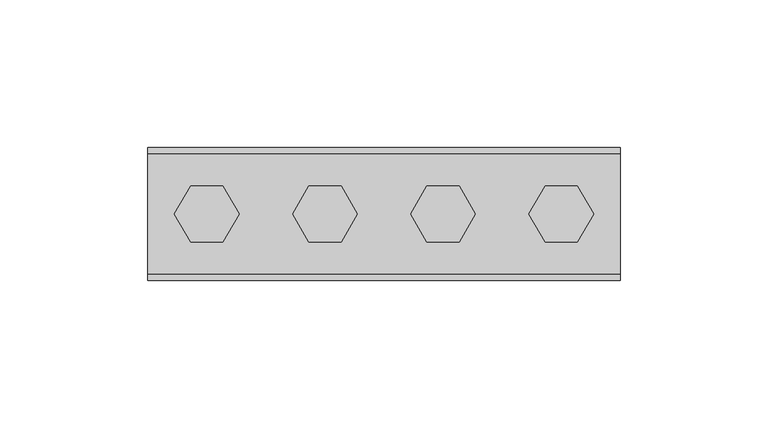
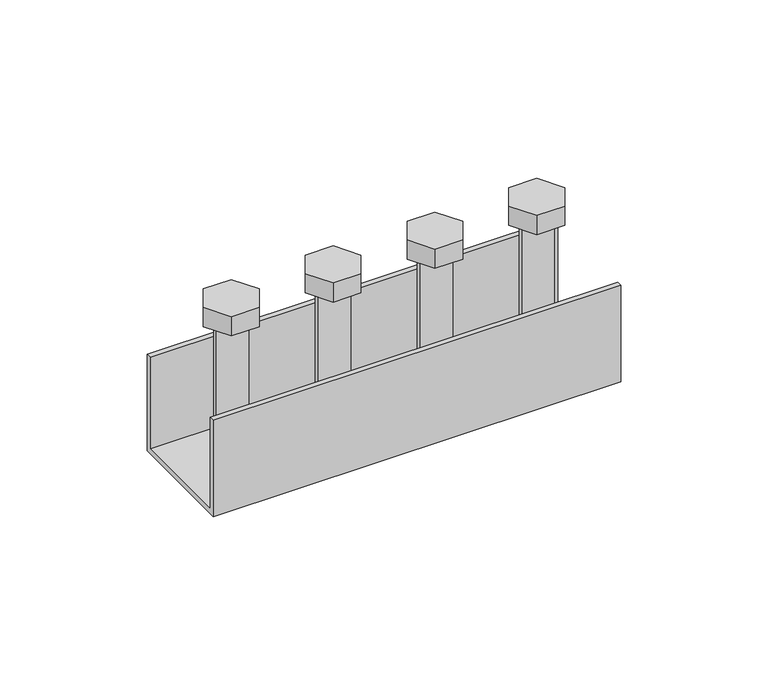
"""IFC4 building model written with IfcOpenShell, lengths in millimetres: unitary equipment geometry, NLRS_52_ME_FB_Geberit Pluvia verbindingselement_PRO_101959 : 363.864.00.1 Geberit Pluvia verbindingselement."""

from ifc_helpers import new_model, si_unit, frame, origin, place, context, project, spatial, circle_curve, source, transform, mapped, element, save
from ifc_brep_helpers import plane_surface, cylinder_surface, advanced_brep


def unitary_equipment_553f520f(model_context):
    return source(origin(), model_context, "Body", "AdvancedBrep", [
        advanced_brep(
        [(-80.0, -22.5, -62.0), (-80.0, -22.5, -22.0), (-80.0, -20.5, -22.0), (-80.0, -20.5, -60.0), (-80.0, 20.5, -60.0), (-80.0, 20.5, -22.0), (-80.0, 22.5, -22.0), (-80.0, 22.5, -62.0), (80.0, -22.5, -62.0), (80.0, 22.5, -62.0), (80.0, 22.5, -22.0), (80.0, 20.5, -22.0), (80.0, 20.5, -60.0), (80.0, -20.5, -60.0), (80.0, -20.5, -22.0), (80.0, -22.5, -22.0), (-72.0, 0.0, -62.0), (-48.0, 0.0, -62.0), (-32.0, 0.0, -62.0), (-8.0, 0.0, -62.0), (8.0, 0.0, -62.0), (32.0, 0.0, -62.0), (48.0, 0.0, -62.0), (72.0, 0.0, -62.0), (54.0, 0.0, -60.0), (66.0, 0.0, -60.0), (14.0, 0.0, -60.0), (26.0, 0.0, -60.0), (-26.0, 0.0, -60.0), (-14.0, 0.0, -60.0), (-66.0, 0.0, -60.0), (-54.0, 0.0, -60.0), (-48.0, 0.0, -64.5), (-72.0, 0.0, -64.5), (-70.9696551, 0.0, -64.5), (-65.4848276, -9.5, -64.5), (-54.5151724, -9.5, -64.5), (-49.0303449, 0.0, -64.5), (-54.5151724, 9.5, -64.5), (-65.4848276, 9.5, -64.5), (-8.0, 0.0, -64.5), (-32.0, 0.0, -64.5), (-30.9696551, 0.0, -64.5), (-25.4848276, -9.5, -64.5), (-14.5151724, -9.5, -64.5), (-9.0303449, 0.0, -64.5), (-14.5151724, 9.5, -64.5), (-25.4848276, 9.5, -64.5), (32.0, 0.0, -64.5), (8.0, 0.0, -64.5), (9.0303449, 0.0, -64.5), (14.5151724, -9.5, -64.5), (25.4848276, -9.5, -64.5), (30.9696551, 0.0, -64.5), (25.4848276, 9.5, -64.5), (14.5151724, 9.5, -64.5), (72.0, 0.0, -64.5), (48.0, 0.0, -64.5), (49.0303449, 0.0, -64.5), (54.5151724, -9.5, -64.5), (65.4848276, -9.5, -64.5), (70.9696551, 0.0, -64.5), (65.4848276, 9.5, -64.5), (54.5151724, 9.5, -64.5), (-70.9696551, 0.0, -72.5), (-65.4848276, 9.5, -72.5), (-54.5151724, 9.5, -72.5), (-49.0303449, 0.0, -72.5), (-54.5151724, -9.5, -72.5), (-65.4848276, -9.5, -72.5), (-30.9696551, 0.0, -72.5), (-25.4848276, 9.5, -72.5), (-14.5151724, 9.5, -72.5), (-9.0303449, 0.0, -72.5), (-14.5151724, -9.5, -72.5), (-25.4848276, -9.5, -72.5), (9.0303449, 0.0, -72.5), (14.5151724, 9.5, -72.5), (25.4848276, 9.5, -72.5), (30.9696551, 0.0, -72.5), (25.4848276, -9.5, -72.5), (14.5151724, -9.5, -72.5), (49.0303449, 0.0, -72.5), (54.5151724, 9.5, -72.5), (65.4848276, 9.5, -72.5), (70.9696551, 0.0, -72.5), (65.4848276, -9.5, -72.5), (54.5151724, -9.5, -72.5), (49.0303449, 0.0, 8.0), (54.5151724, -9.5, 8.0), (65.4848276, -9.5, 8.0), (70.9696551, 0.0, 8.0), (65.4848276, 9.5, 8.0), (54.5151724, 9.5, 8.0), (9.0303449, 0.0, 8.0), (14.5151724, -9.5, 8.0), (25.4848276, -9.5, 8.0), (30.9696551, 0.0, 8.0), (25.4848276, 9.5, 8.0), (14.5151724, 9.5, 8.0), (-30.9696551, 0.0, 8.0), (-25.4848276, -9.5, 8.0), (-14.5151724, -9.5, 8.0), (-9.0303449, 0.0, 8.0), (-14.5151724, 9.5, 8.0), (-25.4848276, 9.5, 8.0), (-70.9696551, 0.0, 8.0), (-65.4848276, -9.5, 8.0), (-54.5151724, -9.5, 8.0), (-49.0303449, 0.0, 8.0), (-54.5151724, 9.5, 8.0), (-65.4848276, 9.5, 8.0), (54.0, 0.0, 0.0), (66.0, 0.0, 0.0), (14.0, 0.0, 0.0), (26.0, 0.0, 0.0), (-26.0, 0.0, 0.0), (-14.0, 0.0, 0.0), (-66.0, 0.0, 0.0), (-54.0, 0.0, 0.0), (49.0303449, 0.0, 0.0), (54.5151724, 9.5, 0.0), (65.4848276, 9.5, 0.0), (70.9696551, 0.0, 0.0), (65.4848276, -9.5, 0.0), (54.5151724, -9.5, 0.0), (9.0303449, 0.0, 0.0), (14.5151724, 9.5, 0.0), (25.4848276, 9.5, 0.0), (30.9696551, 0.0, 0.0), (25.4848276, -9.5, 0.0), (14.5151724, -9.5, 0.0), (-30.9696551, 0.0, 0.0), (-25.4848276, 9.5, 0.0), (-14.5151724, 9.5, 0.0), (-9.0303449, 0.0, 0.0), (-14.5151724, -9.5, 0.0), (-25.4848276, -9.5, 0.0), (-70.9696551, 0.0, 0.0), (-65.4848276, 9.5, 0.0), (-54.5151724, 9.5, 0.0), (-49.0303449, 0.0, 0.0), (-54.5151724, -9.5, 0.0), (-65.4848276, -9.5, 0.0)],
        [
            (0, 1),
            (1, 2),
            (2, 3),
            (3, 4),
            (4, 5),
            (5, 6),
            (6, 7),
            (7, 0),
            (8, 9),
            (9, 10),
            (10, 11),
            (11, 12),
            (12, 13),
            (13, 14),
            (14, 15),
            (15, 8),
            (0, 8),
            (15, 1),
            (5, 11),
            (10, 6),
            (9, 7),
            (16, 17, circle_curve(frame((-60.0, 0.0, -62.0), z_axis=(0.0, 0.0, 1.0), x_axis=(-1.0, 0.0, 0.0)), 12.0)),
            (17, 16, circle_curve(frame((-60.0, 0.0, -62.0), z_axis=(0.0, 0.0, 1.0), x_axis=(-1.0, 0.0, 0.0)), 12.0)),
            (18, 19, circle_curve(frame((-20.0, 0.0, -62.0), z_axis=(0.0, 0.0, 1.0), x_axis=(-1.0, 0.0, 0.0)), 12.0)),
            (19, 18, circle_curve(frame((-20.0, 0.0, -62.0), z_axis=(0.0, 0.0, 1.0), x_axis=(-1.0, 0.0, 0.0)), 12.0)),
            (20, 21, circle_curve(frame((20.0, 0.0, -62.0), z_axis=(0.0, 0.0, 1.0), x_axis=(-1.0, 0.0, 0.0)), 12.0)),
            (21, 20, circle_curve(frame((20.0, 0.0, -62.0), z_axis=(0.0, 0.0, 1.0), x_axis=(-1.0, 0.0, 0.0)), 12.0)),
            (22, 23, circle_curve(frame((60.0, 0.0, -62.0), z_axis=(0.0, 0.0, 1.0), x_axis=(-1.0, 0.0, 0.0)), 12.0)),
            (23, 22, circle_curve(frame((60.0, 0.0, -62.0), z_axis=(0.0, 0.0, 1.0), x_axis=(-1.0, 0.0, 0.0)), 12.0)),
            (4, 12),
            (2, 14),
            (13, 3),
            (24, 25, circle_curve(frame((60.0, 0.0, -60.0), z_axis=(0.0, 0.0, -1.0), x_axis=(-1.0, 0.0, 0.0)), 6.0)),
            (25, 24, circle_curve(frame((60.0, 0.0, -60.0), z_axis=(0.0, 0.0, -1.0), x_axis=(-1.0, 0.0, 0.0)), 6.0)),
            (26, 27, circle_curve(frame((20.0, 0.0, -60.0), z_axis=(0.0, 0.0, -1.0), x_axis=(-1.0, 0.0, 0.0)), 6.0)),
            (27, 26, circle_curve(frame((20.0, 0.0, -60.0), z_axis=(0.0, 0.0, -1.0), x_axis=(-1.0, 0.0, 0.0)), 6.0)),
            (28, 29, circle_curve(frame((-20.0, 0.0, -60.0), z_axis=(0.0, 0.0, -1.0), x_axis=(-1.0, 0.0, 0.0)), 6.0)),
            (29, 28, circle_curve(frame((-20.0, 0.0, -60.0), z_axis=(0.0, 0.0, -1.0), x_axis=(-1.0, 0.0, 0.0)), 6.0)),
            (30, 31, circle_curve(frame((-60.0, 0.0, -60.0), z_axis=(0.0, 0.0, -1.0), x_axis=(-1.0, 0.0, 0.0)), 6.0)),
            (31, 30, circle_curve(frame((-60.0, 0.0, -60.0), z_axis=(0.0, 0.0, -1.0), x_axis=(-1.0, 0.0, 0.0)), 6.0)),
            (32, 33, circle_curve(frame((-60.0, 0.0, -64.5), z_axis=(0.0, 0.0, -1.0), x_axis=(-1.0, 0.0, 0.0)), 12.0)),
            (33, 32, circle_curve(frame((-60.0, 0.0, -64.5), z_axis=(0.0, 0.0, -1.0), x_axis=(-1.0, 0.0, 0.0)), 12.0)),
            (34, 35),
            (35, 36),
            (36, 37),
            (37, 38),
            (38, 39),
            (39, 34),
            (40, 41, circle_curve(frame((-20.0, 0.0, -64.5), z_axis=(0.0, 0.0, -1.0), x_axis=(-1.0, 0.0, 0.0)), 12.0)),
            (41, 40, circle_curve(frame((-20.0, 0.0, -64.5), z_axis=(0.0, 0.0, -1.0), x_axis=(-1.0, 0.0, 0.0)), 12.0)),
            (42, 43),
            (43, 44),
            (44, 45),
            (45, 46),
            (46, 47),
            (47, 42),
            (48, 49, circle_curve(frame((20.0, 0.0, -64.5), z_axis=(0.0, 0.0, -1.0), x_axis=(-1.0, 0.0, 0.0)), 12.0)),
            (49, 48, circle_curve(frame((20.0, 0.0, -64.5), z_axis=(0.0, 0.0, -1.0), x_axis=(-1.0, 0.0, 0.0)), 12.0)),
            (50, 51),
            (51, 52),
            (52, 53),
            (53, 54),
            (54, 55),
            (55, 50),
            (56, 57, circle_curve(frame((60.0, 0.0, -64.5), z_axis=(0.0, 0.0, -1.0), x_axis=(-1.0, 0.0, 0.0)), 12.0)),
            (57, 56, circle_curve(frame((60.0, 0.0, -64.5), z_axis=(0.0, 0.0, -1.0), x_axis=(-1.0, 0.0, 0.0)), 12.0)),
            (58, 59),
            (59, 60),
            (60, 61),
            (61, 62),
            (62, 63),
            (63, 58),
            (32, 17),
            (16, 33),
            (40, 19),
            (18, 41),
            (48, 21),
            (20, 49),
            (56, 23),
            (22, 57),
            (64, 65),
            (65, 66),
            (66, 67),
            (67, 68),
            (68, 69),
            (69, 64),
            (70, 71),
            (71, 72),
            (72, 73),
            (73, 74),
            (74, 75),
            (75, 70),
            (76, 77),
            (77, 78),
            (78, 79),
            (79, 80),
            (80, 81),
            (81, 76),
            (82, 83),
            (83, 84),
            (84, 85),
            (85, 86),
            (86, 87),
            (87, 82),
            (69, 35),
            (34, 64),
            (68, 36),
            (67, 37),
            (66, 38),
            (65, 39),
            (75, 43),
            (42, 70),
            (74, 44),
            (73, 45),
            (72, 46),
            (71, 47),
            (81, 51),
            (50, 76),
            (80, 52),
            (79, 53),
            (78, 54),
            (77, 55),
            (88, 89),
            (89, 90),
            (90, 91),
            (91, 92),
            (92, 93),
            (93, 88),
            (94, 95),
            (95, 96),
            (96, 97),
            (97, 98),
            (98, 99),
            (99, 94),
            (100, 101),
            (101, 102),
            (102, 103),
            (103, 104),
            (104, 105),
            (105, 100),
            (106, 107),
            (107, 108),
            (108, 109),
            (109, 110),
            (110, 111),
            (111, 106),
            (24, 112),
            (112, 113, circle_curve(frame((60.0, 0.0, 0.0), z_axis=(0.0, 0.0, -1.0), x_axis=(-1.0, 0.0, 0.0)), 6.0)),
            (113, 25),
            (113, 112, circle_curve(frame((60.0, 0.0, 0.0), z_axis=(0.0, 0.0, -1.0), x_axis=(-1.0, 0.0, 0.0)), 6.0)),
            (26, 114),
            (114, 115, circle_curve(frame((20.0, 0.0, 0.0), z_axis=(0.0, 0.0, -1.0), x_axis=(-1.0, 0.0, 0.0)), 6.0)),
            (115, 27),
            (115, 114, circle_curve(frame((20.0, 0.0, 0.0), z_axis=(0.0, 0.0, -1.0), x_axis=(-1.0, 0.0, 0.0)), 6.0)),
            (28, 116),
            (116, 117, circle_curve(frame((-20.0, 0.0, 0.0), z_axis=(0.0, 0.0, -1.0), x_axis=(-1.0, 0.0, 0.0)), 6.0)),
            (117, 29),
            (117, 116, circle_curve(frame((-20.0, 0.0, 0.0), z_axis=(0.0, 0.0, -1.0), x_axis=(-1.0, 0.0, 0.0)), 6.0)),
            (30, 118),
            (118, 119, circle_curve(frame((-60.0, 0.0, 0.0), z_axis=(0.0, 0.0, -1.0), x_axis=(-1.0, 0.0, 0.0)), 6.0)),
            (119, 31),
            (119, 118, circle_curve(frame((-60.0, 0.0, 0.0), z_axis=(0.0, 0.0, -1.0), x_axis=(-1.0, 0.0, 0.0)), 6.0)),
            (87, 59),
            (58, 82),
            (86, 60),
            (85, 61),
            (84, 62),
            (83, 63),
            (120, 121),
            (121, 122),
            (122, 123),
            (123, 124),
            (124, 125),
            (125, 120),
            (88, 120),
            (125, 89),
            (124, 90),
            (123, 91),
            (122, 92),
            (121, 93),
            (126, 127),
            (127, 128),
            (128, 129),
            (129, 130),
            (130, 131),
            (131, 126),
            (94, 126),
            (131, 95),
            (130, 96),
            (129, 97),
            (128, 98),
            (127, 99),
            (132, 133),
            (133, 134),
            (134, 135),
            (135, 136),
            (136, 137),
            (137, 132),
            (100, 132),
            (137, 101),
            (136, 102),
            (135, 103),
            (134, 104),
            (133, 105),
            (138, 139),
            (139, 140),
            (140, 141),
            (141, 142),
            (142, 143),
            (143, 138),
            (106, 138),
            (143, 107),
            (142, 108),
            (141, 109),
            (140, 110),
            (139, 111),
        ],
        [
            plane_surface(frame((-80.0, 0.0, -60.0), z_axis=(-1.0, 0.0, 0.0), x_axis=(0.0, 0.0, 1.0))),
            plane_surface(frame((80.0, 0.0, -60.0), z_axis=(1.0, 0.0, 0.0), x_axis=(0.0, 0.0, 1.0))),
            plane_surface(frame((-80.0, -22.5, -62.0), z_axis=(0.0, -1.0, 0.0), x_axis=(1.0, 0.0, 0.0))),
            plane_surface(frame((-80.0, 20.5, -22.0), z_axis=(0.0, 0.0, 1.0), x_axis=(1.0, 0.0, 0.0))),
            plane_surface(frame((-80.0, 22.5, -22.0), z_axis=(0.0, 1.0, 0.0), x_axis=(1.0, 0.0, 0.0))),
            plane_surface(frame((-80.0, 22.5, -62.0), z_axis=(0.0, 0.0, -1.0), x_axis=(1.0, 0.0, 0.0))),
            plane_surface(frame((-80.0, 20.5, -60.0), z_axis=(0.0, -1.0, 0.0), x_axis=(1.0, 0.0, 0.0))),
            plane_surface(frame((-80.0, -20.5, -22.0), z_axis=(0.0, 1.0, 0.0), x_axis=(1.0, 0.0, 0.0))),
            plane_surface(frame((-80.0, -20.5, -60.0), z_axis=(0.0, 0.0, 1.0), x_axis=(1.0, 0.0, 0.0))),
            plane_surface(frame((-80.0, -22.5, -22.0), z_axis=(0.0, 0.0, 1.0), x_axis=(1.0, 0.0, 0.0))),
            plane_surface(frame((-20.0, 0.0, -64.5), z_axis=(0.0, 0.0, -1.0), x_axis=(0.0, -1.0, 0.0))),
            cylinder_surface(frame((-60.0, 0.0, -64.5), z_axis=(0.0, 0.0, -1.0), x_axis=(-1.0, 0.0, 0.0)), 12.0),
            cylinder_surface(frame((-20.0, 0.0, -64.5), z_axis=(0.0, 0.0, -1.0), x_axis=(-1.0, 0.0, 0.0)), 12.0),
            cylinder_surface(frame((20.0, 0.0, -64.5), z_axis=(0.0, 0.0, -1.0), x_axis=(-1.0, 0.0, 0.0)), 12.0),
            cylinder_surface(frame((60.0, 0.0, -64.5), z_axis=(0.0, 0.0, -1.0), x_axis=(-1.0, 0.0, 0.0)), 12.0),
            plane_surface(frame((-60.0, 0.0, -72.5), z_axis=(0.0, 0.0, -1.0), x_axis=(0.0, -1.0, 0.0))),
            plane_surface(frame((-70.9696551, 0.0, -64.5), z_axis=(-0.8660254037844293, -0.5000000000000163, 0.0), x_axis=(0.0, 0.0, -1.0))),
            plane_surface(frame((-65.4848276, -9.5, -64.5), z_axis=(0.0, -1.0, 0.0), x_axis=(0.0, 0.0, -1.0))),
            plane_surface(frame((-54.5151724, -9.5, -64.5), z_axis=(0.8660254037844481, -0.4999999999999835, 0.0), x_axis=(0.0, 0.0, -1.0))),
            plane_surface(frame((-49.0303449, 0.0, -64.5), z_axis=(0.8660254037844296, 0.5000000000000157, 0.0), x_axis=(0.0, 0.0, -1.0))),
            plane_surface(frame((-54.5151724, 9.5, -64.5), z_axis=(0.0, 1.0, 0.0), x_axis=(0.0, 0.0, -1.0))),
            plane_surface(frame((-65.4848276, 9.5, -64.5), z_axis=(-0.8660254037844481, 0.4999999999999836, 0.0), x_axis=(0.0, 0.0, -1.0))),
            plane_surface(frame((-30.9696551, 0.0, -64.5), z_axis=(-0.8660254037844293, -0.5000000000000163, 0.0), x_axis=(0.0, 0.0, -1.0))),
            plane_surface(frame((-25.4848276, -9.5, -64.5), z_axis=(0.0, -1.0, 0.0), x_axis=(0.0, 0.0, -1.0))),
            plane_surface(frame((-14.5151724, -9.5, -64.5), z_axis=(0.8660254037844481, -0.4999999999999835, 0.0), x_axis=(0.0, 0.0, -1.0))),
            plane_surface(frame((-9.0303449, 0.0, -64.5), z_axis=(0.8660254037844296, 0.5000000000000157, 0.0), x_axis=(0.0, 0.0, -1.0))),
            plane_surface(frame((-14.5151724, 9.5, -64.5), z_axis=(0.0, 1.0, 0.0), x_axis=(0.0, 0.0, -1.0))),
            plane_surface(frame((-25.4848276, 9.5, -64.5), z_axis=(-0.8660254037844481, 0.4999999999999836, 0.0), x_axis=(0.0, 0.0, -1.0))),
            plane_surface(frame((9.0303449, 0.0, -64.5), z_axis=(-0.8660254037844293, -0.5000000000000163, 0.0), x_axis=(0.0, 0.0, -1.0))),
            plane_surface(frame((14.5151724, -9.5, -64.5), z_axis=(0.0, -1.0, 0.0), x_axis=(0.0, 0.0, -1.0))),
            plane_surface(frame((25.4848276, -9.5, -64.5), z_axis=(0.8660254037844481, -0.4999999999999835, 0.0), x_axis=(0.0, 0.0, -1.0))),
            plane_surface(frame((30.9696551, 0.0, -64.5), z_axis=(0.8660254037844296, 0.5000000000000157, 0.0), x_axis=(0.0, 0.0, -1.0))),
            plane_surface(frame((25.4848276, 9.5, -64.5), z_axis=(0.0, 1.0, 0.0), x_axis=(0.0, 0.0, -1.0))),
            plane_surface(frame((14.5151724, 9.5, -64.5), z_axis=(-0.8660254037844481, 0.4999999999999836, 0.0), x_axis=(0.0, 0.0, -1.0))),
            plane_surface(frame((0.0, 0.0, 8.0), z_axis=(0.0, 0.0, 1.0), x_axis=(0.0, -1.0, 0.0))),
            cylinder_surface(frame((60.0, 0.0, -72.5), z_axis=(0.0, 0.0, -1.0), x_axis=(-1.0, 0.0, 0.0)), 6.0),
            cylinder_surface(frame((20.0, 0.0, -72.5), z_axis=(0.0, 0.0, -1.0), x_axis=(-1.0, 0.0, 0.0)), 6.0),
            cylinder_surface(frame((-20.0, 0.0, -72.5), z_axis=(0.0, 0.0, -1.0), x_axis=(-1.0, 0.0, 0.0)), 6.0),
            cylinder_surface(frame((-60.0, 0.0, -72.5), z_axis=(0.0, 0.0, -1.0), x_axis=(-1.0, 0.0, 0.0)), 6.0),
            plane_surface(frame((49.0303449, 0.0, -64.5), z_axis=(-0.8660254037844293, -0.5000000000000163, 0.0), x_axis=(0.0, 0.0, -1.0))),
            plane_surface(frame((54.5151724, -9.5, -64.5), z_axis=(0.0, -1.0, 0.0), x_axis=(0.0, 0.0, -1.0))),
            plane_surface(frame((65.4848276, -9.5, -64.5), z_axis=(0.8660254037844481, -0.4999999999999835, 0.0), x_axis=(0.0, 0.0, -1.0))),
            plane_surface(frame((70.9696551, 0.0, -64.5), z_axis=(0.8660254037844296, 0.5000000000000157, 0.0), x_axis=(0.0, 0.0, -1.0))),
            plane_surface(frame((65.4848276, 9.5, -64.5), z_axis=(0.0, 1.0, 0.0), x_axis=(0.0, 0.0, -1.0))),
            plane_surface(frame((54.5151724, 9.5, -64.5), z_axis=(-0.8660254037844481, 0.4999999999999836, 0.0), x_axis=(0.0, 0.0, -1.0))),
            plane_surface(frame((60.0, 0.0, 0.0), z_axis=(0.0, 0.0, -1.0), x_axis=(0.0, -1.0, 0.0))),
            plane_surface(frame((49.0303449, 0.0, 8.0), z_axis=(-0.8660254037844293, -0.5000000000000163, 0.0), x_axis=(0.0, 0.0, -1.0))),
            plane_surface(frame((54.5151724, -9.5, 8.0), z_axis=(0.0, -1.0, 0.0), x_axis=(0.0, 0.0, -1.0))),
            plane_surface(frame((65.4848276, -9.5, 8.0), z_axis=(0.8660254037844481, -0.4999999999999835, 0.0), x_axis=(0.0, 0.0, -1.0))),
            plane_surface(frame((70.9696551, 0.0, 8.0), z_axis=(0.8660254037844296, 0.5000000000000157, 0.0), x_axis=(0.0, 0.0, -1.0))),
            plane_surface(frame((65.4848276, 9.5, 8.0), z_axis=(0.0, 1.0, 0.0), x_axis=(0.0, 0.0, -1.0))),
            plane_surface(frame((54.5151724, 9.5, 8.0), z_axis=(-0.8660254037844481, 0.4999999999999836, 0.0), x_axis=(0.0, 0.0, -1.0))),
            plane_surface(frame((20.0, 0.0, 0.0), z_axis=(0.0, 0.0, -1.0), x_axis=(0.0, -1.0, 0.0))),
            plane_surface(frame((9.0303449, 0.0, 8.0), z_axis=(-0.8660254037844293, -0.5000000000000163, 0.0), x_axis=(0.0, 0.0, -1.0))),
            plane_surface(frame((14.5151724, -9.5, 8.0), z_axis=(0.0, -1.0, 0.0), x_axis=(0.0, 0.0, -1.0))),
            plane_surface(frame((25.4848276, -9.5, 8.0), z_axis=(0.8660254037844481, -0.4999999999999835, 0.0), x_axis=(0.0, 0.0, -1.0))),
            plane_surface(frame((30.9696551, 0.0, 8.0), z_axis=(0.8660254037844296, 0.5000000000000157, 0.0), x_axis=(0.0, 0.0, -1.0))),
            plane_surface(frame((25.4848276, 9.5, 8.0), z_axis=(0.0, 1.0, 0.0), x_axis=(0.0, 0.0, -1.0))),
            plane_surface(frame((14.5151724, 9.5, 8.0), z_axis=(-0.8660254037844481, 0.4999999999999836, 0.0), x_axis=(0.0, 0.0, -1.0))),
            plane_surface(frame((-20.0, 0.0, 0.0), z_axis=(0.0, 0.0, -1.0), x_axis=(0.0, -1.0, 0.0))),
            plane_surface(frame((-30.9696551, 0.0, 8.0), z_axis=(-0.8660254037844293, -0.5000000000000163, 0.0), x_axis=(0.0, 0.0, -1.0))),
            plane_surface(frame((-25.4848276, -9.5, 8.0), z_axis=(0.0, -1.0, 0.0), x_axis=(0.0, 0.0, -1.0))),
            plane_surface(frame((-14.5151724, -9.5, 8.0), z_axis=(0.8660254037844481, -0.4999999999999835, 0.0), x_axis=(0.0, 0.0, -1.0))),
            plane_surface(frame((-9.0303449, 0.0, 8.0), z_axis=(0.8660254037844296, 0.5000000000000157, 0.0), x_axis=(0.0, 0.0, -1.0))),
            plane_surface(frame((-14.5151724, 9.5, 8.0), z_axis=(0.0, 1.0, 0.0), x_axis=(0.0, 0.0, -1.0))),
            plane_surface(frame((-25.4848276, 9.5, 8.0), z_axis=(-0.8660254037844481, 0.4999999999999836, 0.0), x_axis=(0.0, 0.0, -1.0))),
            plane_surface(frame((-60.0, 0.0, 0.0), z_axis=(0.0, 0.0, -1.0), x_axis=(0.0, -1.0, 0.0))),
            plane_surface(frame((-70.9696551, 0.0, 8.0), z_axis=(-0.8660254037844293, -0.5000000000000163, 0.0), x_axis=(0.0, 0.0, -1.0))),
            plane_surface(frame((-65.4848276, -9.5, 8.0), z_axis=(0.0, -1.0, 0.0), x_axis=(0.0, 0.0, -1.0))),
            plane_surface(frame((-54.5151724, -9.5, 8.0), z_axis=(0.8660254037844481, -0.4999999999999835, 0.0), x_axis=(0.0, 0.0, -1.0))),
            plane_surface(frame((-49.0303449, 0.0, 8.0), z_axis=(0.8660254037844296, 0.5000000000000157, 0.0), x_axis=(0.0, 0.0, -1.0))),
            plane_surface(frame((-54.5151724, 9.5, 8.0), z_axis=(0.0, 1.0, 0.0), x_axis=(0.0, 0.0, -1.0))),
            plane_surface(frame((-65.4848276, 9.5, 8.0), z_axis=(-0.8660254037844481, 0.4999999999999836, 0.0), x_axis=(0.0, 0.0, -1.0))),
        ],
        [
            (0, [[1, 2, 3, 4, 5, 6, 7, 8]]),
            (1, [[9, 10, 11, 12, 13, 14, 15, 16]]),
            (2, [[-1, 17, -16, 18]]),
            (3, [[-6, 19, -11, 20]]),
            (4, [[-7, -20, -10, 21]]),
            (5, [[-8, -21, -9, -17], [22, 23], [24, 25], [26, 27], [28, 29]]),
            (6, [[-5, 30, -12, -19]]),
            (7, [[-3, 31, -14, 32]]),
            (8, [[-4, -32, -13, -30], [33, 34], [35, 36], [37, 38], [39, 40]]),
            (9, [[-2, -18, -15, -31]]),
            (10, [[41, 42], [43, 44, 45, 46, 47, 48]]),
            (10, [[49, 50], [51, 52, 53, 54, 55, 56]]),
            (10, [[57, 58], [59, 60, 61, 62, 63, 64]]),
            (10, [[65, 66], [67, 68, 69, 70, 71, 72]]),
            (11, [[-41, 73, -22, 74]]),
            (11, [[-42, -74, -23, -73]]),
            (12, [[-49, 75, -24, 76]]),
            (12, [[-50, -76, -25, -75]]),
            (13, [[-57, 77, -26, 78]]),
            (13, [[-58, -78, -27, -77]]),
            (14, [[-65, 79, -28, 80]]),
            (14, [[-66, -80, -29, -79]]),
            (15, [[81, 82, 83, 84, 85, 86]]),
            (15, [[87, 88, 89, 90, 91, 92]]),
            (15, [[93, 94, 95, 96, 97, 98]]),
            (15, [[99, 100, 101, 102, 103, 104]]),
            (16, [[-86, 105, -43, 106]]),
            (17, [[-85, 107, -44, -105]]),
            (18, [[-84, 108, -45, -107]]),
            (19, [[-83, 109, -46, -108]]),
            (20, [[-82, 110, -47, -109]]),
            (21, [[-81, -106, -48, -110]]),
            (22, [[-92, 111, -51, 112]]),
            (23, [[-91, 113, -52, -111]]),
            (24, [[-90, 114, -53, -113]]),
            (25, [[-89, 115, -54, -114]]),
            (26, [[-88, 116, -55, -115]]),
            (27, [[-87, -112, -56, -116]]),
            (28, [[-98, 117, -59, 118]]),
            (29, [[-97, 119, -60, -117]]),
            (30, [[-96, 120, -61, -119]]),
            (31, [[-95, 121, -62, -120]]),
            (32, [[-94, 122, -63, -121]]),
            (33, [[-93, -118, -64, -122]]),
            (34, [[123, 124, 125, 126, 127, 128]]),
            (34, [[129, 130, 131, 132, 133, 134]]),
            (34, [[135, 136, 137, 138, 139, 140]]),
            (34, [[141, 142, 143, 144, 145, 146]]),
            (35, [[-33, 147, 148, 149]]),
            (35, [[-34, -149, 150, -147]]),
            (36, [[-35, 151, 152, 153]]),
            (36, [[-36, -153, 154, -151]]),
            (37, [[-37, 155, 156, 157]]),
            (37, [[-38, -157, 158, -155]]),
            (38, [[-39, 159, 160, 161]]),
            (38, [[-40, -161, 162, -159]]),
            (39, [[-104, 163, -67, 164]]),
            (40, [[-103, 165, -68, -163]]),
            (41, [[-102, 166, -69, -165]]),
            (42, [[-101, 167, -70, -166]]),
            (43, [[-100, 168, -71, -167]]),
            (44, [[-99, -164, -72, -168]]),
            (45, [[169, 170, 171, 172, 173, 174], [-148, -150]]),
            (46, [[-123, 175, -174, 176]]),
            (47, [[-124, -176, -173, 177]]),
            (48, [[-125, -177, -172, 178]]),
            (49, [[-126, -178, -171, 179]]),
            (50, [[-127, -179, -170, 180]]),
            (51, [[-128, -180, -169, -175]]),
            (52, [[181, 182, 183, 184, 185, 186], [-152, -154]]),
            (53, [[-129, 187, -186, 188]]),
            (54, [[-130, -188, -185, 189]]),
            (55, [[-131, -189, -184, 190]]),
            (56, [[-132, -190, -183, 191]]),
            (57, [[-133, -191, -182, 192]]),
            (58, [[-134, -192, -181, -187]]),
            (59, [[193, 194, 195, 196, 197, 198], [-156, -158]]),
            (60, [[-135, 199, -198, 200]]),
            (61, [[-136, -200, -197, 201]]),
            (62, [[-137, -201, -196, 202]]),
            (63, [[-138, -202, -195, 203]]),
            (64, [[-139, -203, -194, 204]]),
            (65, [[-140, -204, -193, -199]]),
            (66, [[205, 206, 207, 208, 209, 210], [-160, -162]]),
            (67, [[-141, 211, -210, 212]]),
            (68, [[-142, -212, -209, 213]]),
            (69, [[-143, -213, -208, 214]]),
            (70, [[-144, -214, -207, 215]]),
            (71, [[-145, -215, -206, 216]]),
            (72, [[-146, -216, -205, -211]]),
        ],
    ),
    ])


if __name__ == "__main__":
    model = new_model("IFC4")
    model_context = context("Model", 3, world=origin())
    ifc_project = project(units=[si_unit("LENGTHUNIT", "METRE", prefix="MILLI")], contexts=[model_context])
    site = spatial("IfcSite", under=ifc_project)
    building = spatial("IfcBuilding", under=site)
    placement = place(None, origin())
    unitary_equipment_shape = unitary_equipment_553f520f(model_context)
    element("IfcUnitaryEquipment", 1, ObjectType="NLRS_52_ME_FB_Geberit Pluvia verbindingselement_PRO_101959 : 363.864.00.1 Geberit Pluvia verbindingselement", at=placement, inside=building, context=model_context, shape_type="MappedRepresentation", body=[
        mapped(unitary_equipment_shape, transform((0.0, 0.0, 0.0), x_axis=(1.0, 0.0, 0.0), y_axis=(0.0, 1.0, 0.0), z_axis=(0.0, 0.0, 1.0))),
    ])
    save(model, "model.ifc")
